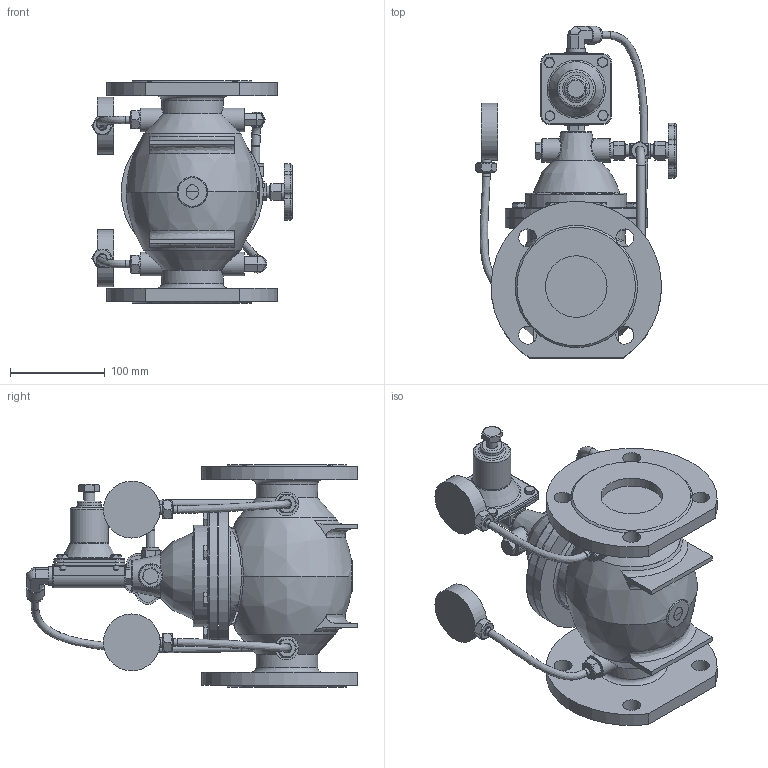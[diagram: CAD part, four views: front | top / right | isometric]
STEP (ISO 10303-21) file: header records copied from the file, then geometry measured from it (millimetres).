
FILE_DESCRIPTION(('STEP AP242'), '1');
FILE_NAME('PVA1-1313RR-F Ìåìáðàííûé ðåãóëÿòîð äàâëåíèÿ «ïîñëå ñåáÿ» ñ ïèëîòíûì óïðàâëåíèåì DN.ru Äó65 Ðó16', '', ('UNSPECIFIED'), ('UNSPECIFIED'), 'C3D Converter', 'C3D Toolkit', '');
FILE_SCHEMA(('AP242_MANAGED_MODEL_BASED_3D_ENGINEERING_MIM_LF { 1 0 10303 442 1 1 4 }'));
Length unit declared in the file: millimetre
Products named in the file (1): PVA1-1313RR-F
Bounding box: 211.17 x 350.1 x 235 mm (x, y, z)
Volume: 3678226.5 mm3; surface area: 376620.4 mm2
Topology: 1 solids, 4 shells, 1437 faces, 3498 edges, 2240 vertices
Faces by surface type: plane 848, bspline 197, cylinder 187, cone 133, torus 45, extrusion 27
Full cylindrical faces by diameter (mm): 2.03 x2, 3 x2, 6 x8, 8 x14, 9 x11, 9.525 x1, 10 x6, 10.363 x2, 12 x1, 12.573 x3, 12.954 x1, 13 x8, 14.254 x3, 14.287 x1, 16 x2, 16.016 x1, 16.192 x2, 16.967 x3, 19 x9, 19.05 x2, 19.885 x1, 23.884 x1, 25 x8, 40 x1, 56.933 x2, 57.199 x1, 60 x2, 65 x4, 100 x1, 103 x1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
Entity records: 104362 total; most frequent: CARTESIAN_POINT 66904, ORIENTED_EDGE 6668, DIRECTION 5682, EDGE_CURVE 3334, VERTEX_POINT 2236, AXIS2_PLACEMENT_3D 1909, VECTOR 1864, LINE 1837
